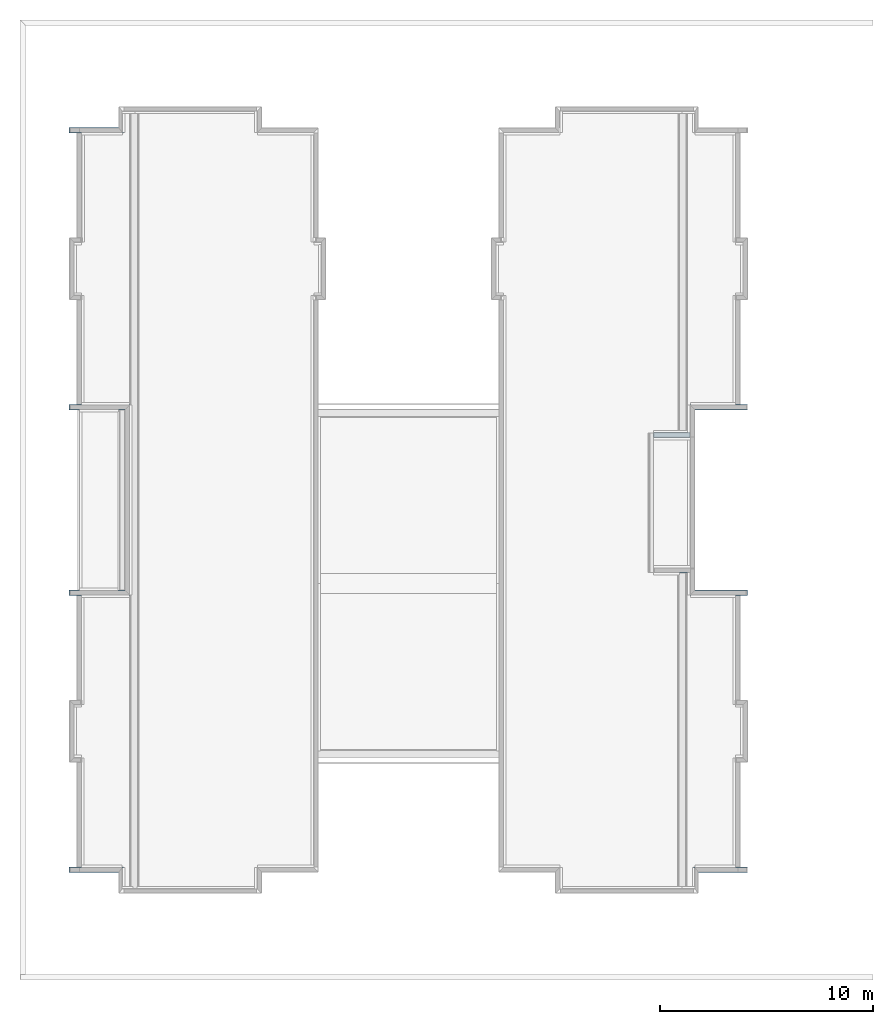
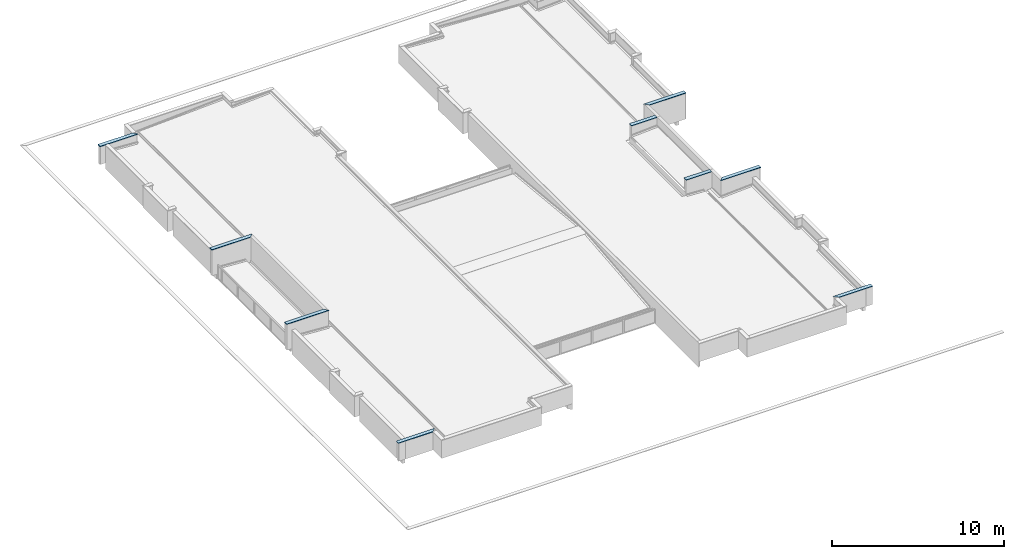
# One storey, part 21 of 25: 9 roofs.
"""IFC4 building model written with IfcOpenShell, lengths in metres."""

from ifc_helpers import new_model, entity, si_unit, converted_unit, derived_unit, direction, frame, origin_with_axes, place, context, subcontext, project, spatial, polygons, material, constituent, constituent_set, type_object, element, save


model = new_model("IFC4")

# Units and contexts
model_context = context("Model", 3, precision=1e-05, world=origin_with_axes(), true_north=direction((0.0, 1.0)))
body_context = subcontext(model_context, "Body", "Model", "MODEL_VIEW")
ifc_project = project(units=[si_unit("LENGTHUNIT", "METRE"), si_unit("AREAUNIT", "SQUARE_METRE"), si_unit("VOLUMEUNIT", "CUBIC_METRE"), converted_unit("PLANEANGLEUNIT", "DEGREE", entity("IfcPlaneAngleMeasure", 0.0174532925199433), si_unit("PLANEANGLEUNIT", "RADIAN"), dimensions=[0, 0, 0, 0, 0, 0, 0]), converted_unit("TIMEUNIT", "Year", entity("IfcTimeMeasure", 31557600.0), si_unit("TIMEUNIT", "SECOND"), dimensions=[0, 0, 1, 0, 0, 0, 0]), si_unit("MASSUNIT", "GRAM", prefix="KILO"), si_unit("THERMODYNAMICTEMPERATUREUNIT", "DEGREE_CELSIUS"), si_unit("LUMINOUSINTENSITYUNIT", "LUMEN"), si_unit("ENERGYUNIT", "JOULE", prefix="MEGA"), derived_unit("THERMALCONDUCTANCEUNIT", [(si_unit("POWERUNIT", "WATT"), 1), (si_unit("LENGTHUNIT", "METRE"), -1), (si_unit("THERMODYNAMICTEMPERATUREUNIT", "KELVIN"), -1)]), derived_unit("SPECIFICHEATCAPACITYUNIT", [(si_unit("ENERGYUNIT", "JOULE"), 1), (si_unit("MASSUNIT", "GRAM", prefix="KILO"), -1), (si_unit("THERMODYNAMICTEMPERATUREUNIT", "KELVIN"), -1)]), derived_unit("MASSDENSITYUNIT", [(si_unit("MASSUNIT", "GRAM", prefix="KILO"), 1), (si_unit("VOLUMEUNIT", "CUBIC_METRE"), -1)])], contexts=[model_context])

# Site, building, storey
site_placement = place(None, origin_with_axes())
site = spatial("IfcSite", under=ifc_project, at=site_placement, Name="PADRÃO", CompositionType="ELEMENT")
building_placement = place(site_placement, origin_with_axes())
building = spatial("IfcBuilding", under=site, at=building_placement, Name="CRECHE PRÉ-ESCOLA TIPO 2", CompositionType="ELEMENT")
storey_placement = place(building_placement, frame((0.0, 0.0, 3.26), z_axis=(0.0, 0.0, 1.0), x_axis=(1.0, 0.0, 0.0)))
storey = spatial("IfcBuildingStorey", under=building, at=storey_placement, Name="COBERTURA", CompositionType="ELEMENT", Elevation=3.26)

# Roofs
ifc_material = material(Name="PINGADEIRA EM CHAPA DE AÇO GALVANIZADO")
ifc_constituent_1 = constituent(ifc_material, Name="PINGADEIRA EM CHAPA DE AÇO GALVANIZADO 1")
ifc_constituent_2 = constituent(ifc_material, Name="PINGADEIRA EM CHAPA DE AÇO GALVANIZADO 2")
ifc_constituent_set_1 = constituent_set(constituents=[ifc_constituent_1, ifc_constituent_2])
roof_type_1 = type_object("IfcRoofType", Name="Várias Estruturas- 2 Segmentos - 250 x 40 x 2560 (1+2559)", PredefinedType="NOTDEFINED")
roof_1_placement = place(storey_placement, frame((-37.7150714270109, 5.05000196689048, 1.31), z_axis=(0.0, 0.0, 1.0), x_axis=(-1.32597019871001e-06, -0.999999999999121, 0.0)))
element("IfcRoof", 1, at=roof_1_placement, inside=storey, type_object=roof_type_1, material=ifc_constituent_set_1, Name="V01", PredefinedType="NOTDEFINED", context=body_context, shape_type="Tessellation", body=[
    polygons([(0.0250000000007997, 0.0, 0.00999999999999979), (0.0250000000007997, 0.000999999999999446, 0.00999999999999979), (-0.22503740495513, 0.000999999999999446, 0.00999999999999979), (-0.22503740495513, 0.0, 0.00999999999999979), (0.0250000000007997, 0.0, -0.0300000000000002), (0.0250000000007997, 0.000999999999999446, -0.0300000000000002), (-0.22503740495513, 0.000999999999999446, -0.0300000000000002), (-0.22503740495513, 0.0, -0.0300000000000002)], [[[1, 2, 3, 4]], [[5, 6, 2, 1]], [[3, 2, 6, 7]], [[4, 3, 7, 8]], [[5, 1, 4, 8]], [[8, 7, 6, 5]]], closed=True),
    polygons([(-0.225029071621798, 0.544967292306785, -0.00999999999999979), (-0.225024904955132, 0.54496729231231, 0.0), (-0.225024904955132, 0.404967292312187, 0.0), (-0.22503740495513, 0.404967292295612, -0.0300000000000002), (-0.22503740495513, 0.000999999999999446, -0.0300000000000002), (-0.225020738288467, 0.000999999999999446, 0.00999999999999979), (-0.225020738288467, 2.55997627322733, 0.00999999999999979), (-0.22503740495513, 2.5599929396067, -0.0300000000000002), (-0.22503740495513, 0.560083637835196, -0.0300000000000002), (-0.225029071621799, 0.560083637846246, -0.00999999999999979), (-0.224029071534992, 0.544967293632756, -0.00999999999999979), (-0.224024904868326, 0.544967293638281, 0.0), (-0.224024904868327, 0.404967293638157, 0.0), (-0.224036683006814, 0.40496729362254, -0.0282675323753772), (-0.205499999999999, 0.404967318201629, -0.01756537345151), (-0.204999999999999, 0.404967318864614, -0.0184313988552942), (-0.205, 0.000999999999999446, -0.0184313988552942), (-0.2055, 0.000999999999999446, -0.01756537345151), (-0.224036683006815, 0.000999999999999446, -0.0282675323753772), (-0.224021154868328, 0.000999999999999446, 0.00900000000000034), (0.0240000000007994, 0.000999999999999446, 0.00900000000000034), (0.0240000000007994, 0.000999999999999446, -0.0282679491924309), (0.00546259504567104, 0.000999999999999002, -0.01756537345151), (0.00496259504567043, 0.000999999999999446, -0.0184313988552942), (0.0250000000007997, 0.000999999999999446, -0.0300000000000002), (0.0250000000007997, 0.000999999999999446, 0.00999999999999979), (0.0250000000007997, 2.30995984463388, 0.00999999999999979), (-0.224036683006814, 2.55899223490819, -0.0282675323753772), (-0.2055, 2.54045587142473, -0.01756537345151), (-0.205, 2.5399558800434, -0.0184313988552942), (0.0250000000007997, 2.30995984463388, -0.0300000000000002), (0.00496259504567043, 2.32999690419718, -0.0184313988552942), (0.00546259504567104, 2.32949691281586, -0.01756537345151), (0.0240000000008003, 2.31095982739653, -0.0282679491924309), (0.0240000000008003, 2.31095982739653, 0.00900000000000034), (-0.224021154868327, 2.55897670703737, 0.00900000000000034), (-0.205000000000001, 0.560083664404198, -0.0184313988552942), (-0.205500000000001, 0.560083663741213, -0.01756537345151), (-0.224036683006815, 0.560083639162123, -0.0282675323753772), (-0.224029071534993, 0.560083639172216, -0.00999999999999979)], [[[1, 2, 3, 4, 5, 6, 7, 8, 9, 10]], [[11, 12, 2, 1]], [[12, 13, 3, 2]], [[14, 15, 16, 4, 3, 13]], [[17, 5, 4, 16]], [[17, 18, 19, 20, 21, 22, 23, 24, 25, 26, 6, 5]], [[7, 6, 26, 27]], [[28, 29, 30, 8, 7, 27, 31, 32, 33, 34, 35, 36]], [[30, 37, 9, 8]], [[9, 37, 38, 39, 40, 10]], [[10, 40, 11, 1]], [[14, 13, 12, 11, 40, 39, 28, 36, 20, 19]], [[19, 18, 15, 14]], [[18, 17, 16, 15]], [[35, 21, 20, 36]], [[34, 22, 21, 35]], [[33, 23, 22, 34]], [[32, 24, 23, 33]], [[31, 25, 24, 32]], [[27, 26, 25, 31]], [[28, 39, 38, 29]], [[29, 38, 37, 30]]], closed=True),
])
ifc_constituent_3 = constituent(ifc_material, Name="PINGADEIRA EM CHAPA DE AÇO GALVANIZADO 1")
ifc_constituent_4 = constituent(ifc_material, Name="PINGADEIRA EM CHAPA DE AÇO GALVANIZADO 2")
ifc_constituent_set_2 = constituent_set(constituents=[ifc_constituent_3, ifc_constituent_4])
roof_type_2 = type_object("IfcRoofType", Name="Várias Estruturas- 2 Segmentos - 250 x 40 x 2705 (1+2704)", PredefinedType="NOTDEFINED")
roof_2_placement = place(storey_placement, frame((-5.89056402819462, 18.2501544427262, 1.86), z_axis=(0.0, 0.0, 1.0), x_axis=(5.9962860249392e-07, 0.99999999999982, 0.0)))
element("IfcRoof", 2, at=roof_2_placement, inside=storey, type_object=roof_type_2, material=ifc_constituent_set_2, Name="V01", PredefinedType="NOTDEFINED", context=body_context, shape_type="Tessellation", body=[
    polygons([(0.0250000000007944, 0.0, 0.00999999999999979), (0.0250000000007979, 0.000999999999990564, 0.00999999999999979), (-0.225037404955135, 0.000999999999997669, 0.00999999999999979), (-0.225037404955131, 0.0, 0.00999999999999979), (0.0250000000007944, 0.0, -0.0300000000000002), (0.0250000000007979, 0.000999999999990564, -0.0300000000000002), (-0.225037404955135, 0.000999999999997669, -0.0300000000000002), (-0.225037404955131, 0.0, -0.0300000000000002)], [[[1, 2, 3, 4]], [[5, 6, 2, 1]], [[3, 2, 6, 7]], [[4, 3, 7, 8]], [[5, 1, 4, 8]], [[8, 7, 6, 5]]], closed=True),
    polygons([(0.0250000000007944, 0.000999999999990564, -0.0300000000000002), (0.0049625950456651, 0.000999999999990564, -0.0184313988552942), (0.00496259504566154, 2.47488143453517, -0.0184313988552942), (0.0250000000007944, 2.45484442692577, -0.0300000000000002), (-0.205500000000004, 0.000999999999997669, -0.01756537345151), (-0.224036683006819, 0.000999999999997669, -0.0282675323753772), (-0.224021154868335, 0.000999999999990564, 0.00900000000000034), (0.0240000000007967, 0.000999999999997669, 0.00900000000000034), (0.0240000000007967, 0.000999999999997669, -0.0282679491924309), (0.00546259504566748, 0.000999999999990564, -0.01756537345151), (0.0250000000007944, 0.000999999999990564, 0.00999999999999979), (-0.225020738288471, 0.000999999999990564, 0.00999999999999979), (-0.225037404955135, 0.000999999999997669, -0.0300000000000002), (-0.205000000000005, 0.000999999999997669, -0.0184313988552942), (0.00546259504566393, 2.47438144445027, -0.01756537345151), (-0.205500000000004, 2.68533985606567, -0.01756537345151), (-0.205000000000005, 2.68483986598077, -0.0184313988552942), (-0.225037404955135, 2.70487687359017, -0.0300000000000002), (-0.225020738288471, 2.70486020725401, 0.00999999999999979), (0.0250000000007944, 2.45484442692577, 0.00999999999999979), (0.0240000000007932, 2.45584440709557, -0.0282679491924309), (0.0240000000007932, 2.45584440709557, 0.00900000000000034), (-0.224021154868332, 2.70386064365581, 0.00900000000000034), (-0.224036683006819, 2.70387617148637, -0.0282675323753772)], [[[1, 2, 3, 4]], [[5, 6, 7, 8, 9, 10, 2, 1, 11, 12, 13, 14]], [[2, 10, 15, 3]], [[16, 17, 18, 19, 20, 4, 3, 15, 21, 22, 23, 24]], [[11, 1, 4, 20]], [[6, 5, 16, 24]], [[7, 6, 24, 23]], [[8, 7, 23, 22]], [[9, 8, 22, 21]], [[10, 9, 21, 15]], [[12, 11, 20, 19]], [[13, 12, 19, 18]], [[14, 13, 18, 17]], [[5, 14, 17, 16]]], closed=True),
])
ifc_constituent_5 = constituent(ifc_material, Name="PINGADEIRA EM CHAPA DE AÇO GALVANIZADO 1")
ifc_constituent_6 = constituent(ifc_material, Name="PINGADEIRA EM CHAPA DE AÇO GALVANIZADO 2")
ifc_constituent_set_3 = constituent_set(constituents=[ifc_constituent_5, ifc_constituent_6])
roof_type_3 = type_object("IfcRoofType", Name="Várias Estruturas- 2 Segmentos - 250 x 40 x 2715 (2714+1)", PredefinedType="NOTDEFINED")
roof_3_placement = place(storey_placement, frame((-8.37057142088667, 26.7501559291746, 1.86), z_axis=(0.0, 0.0, 1.0), x_axis=(2.82554878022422e-07, -0.99999999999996, 0.0)))
element("IfcRoof", 3, at=roof_3_placement, inside=storey, type_object=roof_type_3, material=ifc_constituent_set_3, Name="V01", PredefinedType="NOTDEFINED", context=body_context, shape_type="Tessellation", body=[
    polygons([(0.0250000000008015, 0.0250004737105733, -0.0300000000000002), (0.0049625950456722, 0.00496268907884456, -0.0184313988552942), (0.0049625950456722, 2.48900000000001, -0.0184313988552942), (0.0250000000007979, 2.48900000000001, -0.0300000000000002), (-0.205500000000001, -0.205503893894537, -0.01756537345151), (-0.224036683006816, -0.22404092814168, -0.0282675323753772), (-0.224021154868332, -0.22402539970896, 0.00900000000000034), (0.0240000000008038, 0.0240004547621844, 0.00900000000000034), (0.0240000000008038, 0.0240004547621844, -0.0282679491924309), (0.00546259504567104, 0.0054626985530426, -0.01756537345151), (0.0250000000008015, 0.0250004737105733, 0.00999999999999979), (-0.225020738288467, -0.225025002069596, 0.00999999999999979), (-0.225037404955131, -0.225041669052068, -0.0300000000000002), (-0.205000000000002, -0.205003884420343, -0.0184313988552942), (0.00546259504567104, 2.48900000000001, -0.01756537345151), (-0.205500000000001, 2.48900000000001, -0.01756537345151), (-0.205000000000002, 2.48900000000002, -0.0184313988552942), (-0.225037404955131, 2.48900000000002, -0.0300000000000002), (-0.225020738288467, 2.48900000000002, 0.00999999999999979), (0.0250000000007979, 2.48900000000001, 0.00999999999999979), (0.0240000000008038, 2.48900000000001, -0.0282679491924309), (0.0240000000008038, 2.48900000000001, 0.00900000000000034), (-0.224021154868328, 2.48900000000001, 0.00900000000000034), (-0.224036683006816, 2.48900000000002, -0.0282675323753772)], [[[1, 2, 3, 4]], [[5, 6, 7, 8, 9, 10, 2, 1, 11, 12, 13, 14]], [[2, 10, 15, 3]], [[16, 17, 18, 19, 20, 4, 3, 15, 21, 22, 23, 24]], [[11, 1, 4, 20]], [[6, 5, 16, 24]], [[7, 6, 24, 23]], [[8, 7, 23, 22]], [[9, 8, 22, 21]], [[10, 9, 21, 15]], [[12, 11, 20, 19]], [[13, 12, 19, 18]], [[14, 13, 18, 17]], [[5, 14, 17, 16]]], closed=True),
    polygons([(0.0250000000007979, 2.48900000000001, 0.00999999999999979), (0.0250000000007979, 2.49000000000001, 0.00999999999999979), (-0.225037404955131, 2.49000000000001, 0.00999999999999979), (-0.225037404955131, 2.48900000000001, 0.00999999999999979), (0.0250000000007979, 2.48900000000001, -0.0300000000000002), (0.0250000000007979, 2.49000000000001, -0.0300000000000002), (-0.225037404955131, 2.49000000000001, -0.0300000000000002), (-0.225037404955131, 2.48900000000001, -0.0300000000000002)], [[[1, 2, 3, 4]], [[5, 6, 2, 1]], [[3, 2, 6, 7]], [[4, 3, 7, 8]], [[5, 1, 4, 8]], [[8, 7, 6, 5]]], closed=True),
])
ifc_constituent_7 = constituent(ifc_material, Name="PINGADEIRA EM CHAPA DE AÇO GALVANIZADO 1")
ifc_constituent_8 = constituent(ifc_material, Name="PINGADEIRA EM CHAPA DE AÇO GALVANIZADO 2")
ifc_constituent_set_4 = constituent_set(constituents=[ifc_constituent_7, ifc_constituent_8])
roof_type_4 = type_object("IfcRoofType", Name="Várias Estruturas- 2 Segmentos - 250 x 40 x 2536 (1+2535)", PredefinedType="NOTDEFINED")
roof_4_placement = place(storey_placement, frame((-5.89004280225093, 5.05015602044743, 1.31), z_axis=(0.0, 0.0, 1.0), x_axis=(-1.48912753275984e-07, 0.999999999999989, 0.0)))
element("IfcRoof", 4, at=roof_4_placement, inside=storey, type_object=roof_type_4, material=ifc_constituent_set_4, Name="V01", PredefinedType="NOTDEFINED", context=body_context, shape_type="Tessellation", body=[
    polygons([(-0.0250000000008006, 0.0, -0.0300000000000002), (0.0299999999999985, -4.46738113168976e-09, -0.0300000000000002), (0.0299999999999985, -4.46738113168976e-09, 0.0), (0.169999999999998, -2.53151668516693e-08, 0.0), (0.169999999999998, -2.53151668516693e-08, -0.0300000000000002), (0.225037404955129, 0.0, -0.0300000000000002), (0.225037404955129, 0.0, 0.00999999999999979), (-0.0250000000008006, 0.0, 0.00999999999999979), (-0.0250000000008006, 0.00100000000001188, -0.0300000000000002), (0.0300000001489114, 0.00100000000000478, -0.0300000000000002), (0.0300000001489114, 0.00100000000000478, 0.0), (0.170000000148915, 0.00100000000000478, 0.0), (0.170000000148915, 0.00100000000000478, -0.0300000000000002), (0.225037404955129, 0.00100000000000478, -0.0300000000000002), (0.225037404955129, 0.00100000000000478, 0.00999999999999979), (-0.0250000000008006, 0.00100000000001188, 0.00999999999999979)], [[[1, 2, 3, 4, 5, 6, 7, 8]], [[9, 10, 2, 1]], [[11, 3, 2, 10]], [[12, 4, 3, 11]], [[13, 5, 4, 12]], [[6, 5, 13, 14]], [[7, 6, 14, 15]], [[8, 7, 15, 16]], [[1, 8, 16, 9]], [[12, 11, 10, 9, 16, 15, 14, 13]]], closed=True),
    polygons([(0.225037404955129, 0.00100000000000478, -0.0300000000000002), (0.204999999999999, 0.00100000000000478, -0.0184313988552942), (0.204999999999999, 0.379999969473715, -0.0184313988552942), (0.225037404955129, 0.37999996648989, -0.0300000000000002), (0.2055, 0.00100000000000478, -0.01756537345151), (0.225020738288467, 0.00100000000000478, 0.00999999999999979), (-0.0250000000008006, 0.00100000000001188, 0.00999999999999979), (-0.0250000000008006, 0.00100000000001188, -0.0300000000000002), (-0.00496259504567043, 0.00100000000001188, -0.0184313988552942), (-0.00546259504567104, 0.00100000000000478, -0.01756537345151), (-0.0240000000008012, 0.00100000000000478, -0.0282679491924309), (-0.0240000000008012, 0.00100000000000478, 0.00900000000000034), (0.224021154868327, 0.00100000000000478, 0.00900000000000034), (0.224036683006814, 0.00100000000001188, -0.0282675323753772), (0.2055, 0.379999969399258, -0.01756537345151), (0.224036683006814, 0.379999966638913, -0.0282675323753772), (0.224024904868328, 0.379999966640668, 0.0), (0.225024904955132, 0.379999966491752, 0.0), (0.225024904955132, 0.519999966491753, 0.0), (0.225029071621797, 0.519999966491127, -0.00999999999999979), (0.225029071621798, 0.53494465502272, -0.00999999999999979), (0.22503740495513, 0.534944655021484, -0.0300000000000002), (0.225037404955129, 2.53614507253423, -0.0300000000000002), (0.225020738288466, 2.53612839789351, 0.00999999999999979), (-0.0250000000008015, 2.28598803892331, 0.00999999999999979), (-0.0250000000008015, 2.28598803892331, -0.0300000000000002), (-0.00496259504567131, 2.30603503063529, -0.0184313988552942), (-0.00546259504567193, 2.30553479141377, -0.01756537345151), (-0.0240000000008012, 2.28698851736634, -0.0282679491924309), (-0.0240000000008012, 2.28698851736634, 0.00900000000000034), (0.224021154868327, 2.53512833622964, 0.00900000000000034), (0.224029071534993, 0.519999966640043, -0.00999999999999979), (0.224024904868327, 0.519999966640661, 0.0), (0.224036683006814, 2.53514387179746, -0.0282675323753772), (0.224036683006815, 0.534944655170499, -0.0282675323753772), (0.224029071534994, 0.534944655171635, -0.00999999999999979), (0.2055, 0.534944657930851, -0.01756537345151), (0.204999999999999, 0.534944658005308, -0.0184313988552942), (0.204999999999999, 2.51609808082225, -0.0184313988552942), (0.205499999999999, 2.51659832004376, -0.01756537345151)], [[[1, 2, 3, 4]], [[5, 2, 1, 6, 7, 8, 9, 10, 11, 12, 13, 14]], [[2, 5, 15, 3]], [[16, 17, 18, 4, 3, 15]], [[4, 18, 19, 20, 21, 22, 23, 24, 6, 1]], [[25, 7, 6, 24]], [[26, 8, 7, 25]], [[27, 9, 8, 26]], [[28, 10, 9, 27]], [[29, 11, 10, 28]], [[30, 12, 11, 29]], [[31, 13, 12, 30]], [[32, 33, 17, 16, 14, 13, 31, 34, 35, 36]], [[5, 14, 16, 15]], [[17, 33, 19, 18]], [[33, 32, 20, 19]], [[36, 21, 20, 32]], [[35, 37, 38, 22, 21, 36]], [[38, 39, 23, 22]], [[23, 39, 40, 34, 31, 30, 29, 28, 27, 26, 25, 24]], [[35, 34, 40, 37]], [[37, 40, 39, 38]]], closed=True),
])
ifc_constituent_9 = constituent(ifc_material, Name="PINGADEIRA EM CHAPA DE AÇO GALVANIZADO 1")
ifc_constituent_10 = constituent(ifc_material, Name="PINGADEIRA EM CHAPA DE AÇO GALVANIZADO 2")
ifc_constituent_set_5 = constituent_set(constituents=[ifc_constituent_9, ifc_constituent_10])
roof_type_5 = type_object("IfcRoofType", Name="Várias Estruturas- 2 Segmentos - 250 x 40 x 1700 (1+1699)", PredefinedType="NOTDEFINED")
roof_5_placement = place(storey_placement, frame((-10.2955713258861, 25.450155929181, 1.86), z_axis=(0.0, 0.0, 1.0), x_axis=(0.0, -1.0, 0.0)))
element("IfcRoof", 5, at=roof_5_placement, inside=storey, type_object=roof_type_5, material=ifc_constituent_set_5, Name="V01", PredefinedType="NOTDEFINED", context=body_context, shape_type="Tessellation", body=[
    polygons([(0.0250000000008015, 0.0, 0.00999999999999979), (0.0250000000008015, 0.00100000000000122, 0.00999999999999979), (-0.225037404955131, 0.00100000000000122, 0.00999999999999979), (-0.225037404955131, 0.0, 0.00999999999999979), (0.0250000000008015, 0.0, -0.0300000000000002), (0.0250000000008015, 0.00100000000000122, -0.0300000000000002), (-0.225037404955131, 0.00100000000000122, -0.0300000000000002), (-0.225037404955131, 0.0, -0.0300000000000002)], [[[1, 2, 3, 4]], [[5, 6, 2, 1]], [[3, 2, 6, 7]], [[4, 3, 7, 8]], [[5, 1, 4, 8]], [[8, 7, 6, 5]]], closed=True),
    polygons([(0.0250000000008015, 1.70000000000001, -0.0300000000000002), (0.0250000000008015, 0.00100000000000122, -0.0300000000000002), (0.0049625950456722, 0.00100000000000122, -0.0184313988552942), (0.0049625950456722, 1.70000000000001, -0.0184313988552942), (0.0250000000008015, 1.70000000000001, 0.00999999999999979), (0.0250000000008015, 0.00100000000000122, 0.00999999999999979), (0.0240000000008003, 0.00100000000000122, 0.00900000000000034), (0.0240000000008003, 0.00100000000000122, -0.0282679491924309), (0.00546259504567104, 0.00100000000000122, -0.01756537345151), (-0.225020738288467, 0.00100000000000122, 0.00999999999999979), (-0.225037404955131, 0.00100000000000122, -0.0300000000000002), (-0.204999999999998, 0.00100000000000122, -0.0184313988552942), (-0.205500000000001, 0.00100000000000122, -0.01756537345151), (-0.224036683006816, 0.00100000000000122, -0.0282675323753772), (-0.224021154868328, 0.00100000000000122, 0.00900000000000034), (0.00546259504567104, 1.70000000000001, -0.01756537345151), (-0.225020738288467, 1.70000000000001, 0.00999999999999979), (0.0240000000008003, 1.70000000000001, -0.0282679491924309), (0.0240000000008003, 1.70000000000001, 0.00900000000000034), (-0.224021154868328, 1.70000000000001, 0.00900000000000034), (-0.224036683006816, 1.70000000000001, -0.0282675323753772), (-0.205500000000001, 1.70000000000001, -0.01756537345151), (-0.205000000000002, 1.70000000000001, -0.0184313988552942), (-0.225037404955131, 1.70000000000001, -0.0300000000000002)], [[[1, 2, 3, 4]], [[5, 6, 2, 1]], [[7, 8, 9, 3, 2, 6, 10, 11, 12, 13, 14, 15]], [[4, 3, 9, 16]], [[17, 5, 1, 4, 16, 18, 19, 20, 21, 22, 23, 24]], [[17, 10, 6, 5]], [[18, 8, 7, 19]], [[16, 9, 8, 18]], [[24, 11, 10, 17]], [[23, 12, 11, 24]], [[22, 13, 12, 23]], [[21, 14, 13, 22]], [[20, 15, 14, 21]], [[19, 7, 15, 20]]], closed=True),
])
ifc_constituent_11 = constituent(ifc_material, Name="PINGADEIRA EM CHAPA DE AÇO GALVANIZADO 1")
ifc_constituent_12 = constituent(ifc_material, Name="PINGADEIRA EM CHAPA DE AÇO GALVANIZADO 2")
ifc_constituent_set_6 = constituent_set(constituents=[ifc_constituent_11, ifc_constituent_12])
roof_type_6 = type_object("IfcRoofType", Name="Várias Estruturas- 2 Segmentos - 250 x 40 x 1700 (1699+1)", PredefinedType="NOTDEFINED")
roof_6_placement = place(storey_placement, frame((-8.59545305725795, 19.3001866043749, 1.86), z_axis=(0.0, 0.0, 1.0), x_axis=(-1.9230767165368e-05, 0.999999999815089, 0.0)))
element("IfcRoof", 6, at=roof_6_placement, inside=storey, type_object=roof_type_6, material=ifc_constituent_set_6, Name="V01", PredefinedType="NOTDEFINED", context=body_context, shape_type="Tessellation", body=[
    polygons([(0.0250000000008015, 1.699, -0.0300000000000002), (0.0250000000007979, 0.0, -0.0300000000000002), (0.0049625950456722, 0.0, -0.0184313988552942), (0.0049625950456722, 1.699, -0.0184313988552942), (0.0250000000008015, 1.699, 0.00999999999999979), (0.0250000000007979, 0.0, 0.00999999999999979), (0.0240000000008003, 0.0, 0.00900000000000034), (0.0240000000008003, 0.0, -0.0282679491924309), (0.00546259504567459, 0.0, -0.01756537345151), (-0.225020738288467, 0.0, 0.00999999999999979), (-0.225037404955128, 0.0, -0.0300000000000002), (-0.205000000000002, 0.0, -0.0184313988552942), (-0.205500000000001, 0.0, -0.01756537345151), (-0.224036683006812, 0.0, -0.0282675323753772), (-0.224021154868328, 0.0, 0.00900000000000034), (0.00546259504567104, 1.699, -0.01756537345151), (-0.225020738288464, 1.699, 0.00999999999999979), (0.0240000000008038, 1.699, -0.0282679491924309), (0.0240000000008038, 1.699, 0.00900000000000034), (-0.224021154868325, 1.699, 0.00900000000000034), (-0.224036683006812, 1.699, -0.0282675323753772), (-0.205499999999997, 1.699, -0.01756537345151), (-0.204999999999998, 1.699, -0.0184313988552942), (-0.225037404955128, 1.699, -0.0300000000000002)], [[[1, 2, 3, 4]], [[5, 6, 2, 1]], [[7, 8, 9, 3, 2, 6, 10, 11, 12, 13, 14, 15]], [[4, 3, 9, 16]], [[17, 5, 1, 4, 16, 18, 19, 20, 21, 22, 23, 24]], [[17, 10, 6, 5]], [[18, 8, 7, 19]], [[16, 9, 8, 18]], [[24, 11, 10, 17]], [[23, 12, 11, 24]], [[22, 13, 12, 23]], [[21, 14, 13, 22]], [[20, 15, 14, 21]], [[19, 7, 15, 20]]], closed=True),
    polygons([(0.0250000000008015, 1.699, 0.00999999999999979), (0.025000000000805, 1.7, 0.00999999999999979), (-0.225037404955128, 1.7, 0.00999999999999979), (-0.225037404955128, 1.69899999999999, 0.00999999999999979), (0.0250000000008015, 1.699, -0.0300000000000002), (0.025000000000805, 1.7, -0.0300000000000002), (-0.225037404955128, 1.7, -0.0300000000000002), (-0.225037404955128, 1.69899999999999, -0.0300000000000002)], [[[1, 2, 3, 4]], [[5, 6, 2, 1]], [[3, 2, 6, 7]], [[4, 3, 7, 8]], [[5, 1, 4, 8]], [[8, 7, 6, 5]]], closed=True),
])
ifc_constituent_13 = constituent(ifc_material, Name="PINGADEIRA EM CHAPA DE AÇO GALVANIZADO 1")
ifc_constituent_14 = constituent(ifc_material, Name="PINGADEIRA EM CHAPA DE AÇO GALVANIZADO 2")
ifc_constituent_set_7 = constituent_set(constituents=[ifc_constituent_13, ifc_constituent_14])
roof_type_7 = type_object("IfcRoofType", Name="Várias Estruturas- 2 Segmentos - 250 x 40 x 2560 (2559+1)", PredefinedType="NOTDEFINED")
roof_7_placement = place(storey_placement, frame((-35.3800961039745, 39.950002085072, 1.31), z_axis=(0.0, 0.0, 1.0), x_axis=(-2.65474032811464e-07, 0.999999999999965, 0.0)))
element("IfcRoof", 7, at=roof_7_placement, inside=storey, type_object=roof_type_7, material=ifc_constituent_set_7, Name="V01", PredefinedType="NOTDEFINED", context=body_context, shape_type="Tessellation", body=[
    polygons([(-0.224029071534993, 1.79000749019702, -0.00999999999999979), (-0.224024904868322, 1.79000749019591, 0.0), (-0.224024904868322, 1.93000749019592, 0.0), (-0.224036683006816, 1.93000749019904, -0.0282675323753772), (-0.224036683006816, 2.33397532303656, -0.0282675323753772), (-0.224021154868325, 2.33397532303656, 0.00900000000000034), (-0.224021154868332, -0.224021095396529, 0.00900000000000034), (-0.224036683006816, -0.224036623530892, -0.0282675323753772), (-0.224036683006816, 1.77489144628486, -0.0282675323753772), (-0.224029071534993, 1.77489144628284, -0.00999999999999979), (-0.225029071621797, 1.79000749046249, -0.00999999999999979), (-0.225024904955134, 1.79000749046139, 0.0), (-0.225024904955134, 1.93000749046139, 0.0), (-0.225037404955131, 1.93000749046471, -0.0300000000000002), (-0.204999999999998, 1.93000748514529, -0.0184313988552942), (-0.205500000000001, 1.93000748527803, -0.01756537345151), (-0.205500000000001, 2.33397532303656, -0.01756537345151), (-0.204999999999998, 2.33397532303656, -0.0184313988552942), (-0.225037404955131, 2.33397532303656, -0.0300000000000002), (-0.225020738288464, 2.33397532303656, 0.00999999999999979), (0.0250000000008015, 2.33397532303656, 0.00999999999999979), (0.0250000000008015, 2.33397532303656, -0.0300000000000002), (0.00496259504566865, 2.33397532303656, -0.0184313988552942), (0.00546259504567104, 2.33397532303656, -0.01756537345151), (0.0240000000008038, 2.33397532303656, -0.0282679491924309), (0.0240000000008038, 2.33397532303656, 0.00900000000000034), (0.0240000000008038, 0.0239999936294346, 0.00900000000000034), (-0.204999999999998, -0.204999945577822, -0.0184313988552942), (-0.205499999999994, -0.205499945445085, -0.01756537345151), (0.0240000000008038, 0.0239999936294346, -0.0282679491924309), (0.00546259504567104, 0.00546259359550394, -0.01756537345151), (0.00496259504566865, 0.00496259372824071, -0.0184313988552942), (0.0250000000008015, 0.0249999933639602, -0.0300000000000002), (0.0250000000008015, 0.0249999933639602, 0.00999999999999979), (-0.225020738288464, -0.225020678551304, 0.00999999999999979), (-0.225037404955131, -0.225037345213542, -0.0300000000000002), (-0.205500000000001, 1.77489144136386, -0.01756537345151), (-0.225037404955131, 1.77489144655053, -0.0300000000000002), (-0.225029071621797, 1.77489144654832, -0.00999999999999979), (-0.204999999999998, 1.77489144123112, -0.0184313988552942)], [[[1, 2, 3, 4, 5, 6, 7, 8, 9, 10]], [[11, 12, 2, 1]], [[12, 13, 3, 2]], [[3, 13, 14, 15, 16, 4]], [[17, 5, 4, 16]], [[5, 17, 18, 19, 20, 21, 22, 23, 24, 25, 26, 6]], [[26, 27, 7, 6]], [[28, 29, 8, 7, 27, 30, 31, 32, 33, 34, 35, 36]], [[37, 9, 8, 29]], [[38, 39, 10, 9, 37, 40]], [[10, 39, 11, 1]], [[14, 13, 12, 11, 39, 38, 36, 35, 20, 19]], [[19, 18, 15, 14]], [[18, 17, 16, 15]], [[20, 35, 34, 21]], [[21, 34, 33, 22]], [[22, 33, 32, 23]], [[23, 32, 31, 24]], [[24, 31, 30, 25]], [[25, 30, 27, 26]], [[40, 37, 29, 28]], [[38, 40, 28, 36]]], closed=True),
    polygons([(0.0250000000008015, 2.33397532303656, 0.00999999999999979), (0.0250000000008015, 2.33497532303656, 0.00999999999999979), (-0.225037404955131, 2.33497532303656, 0.00999999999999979), (-0.225037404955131, 2.33397532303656, 0.00999999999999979), (0.0250000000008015, 2.33397532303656, -0.0300000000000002), (0.0250000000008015, 2.33497532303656, -0.0300000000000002), (-0.225037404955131, 2.33497532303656, -0.0300000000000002), (-0.225037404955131, 2.33397532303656, -0.0300000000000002)], [[[1, 2, 3, 4]], [[5, 6, 2, 1]], [[3, 2, 6, 7]], [[4, 3, 7, 8]], [[5, 1, 4, 8]], [[8, 7, 6, 5]]], closed=True),
])
ifc_constituent_15 = constituent(ifc_material, Name="PINGADEIRA EM CHAPA DE AÇO GALVANIZADO 1")
ifc_constituent_16 = constituent(ifc_material, Name="PINGADEIRA EM CHAPA DE AÇO GALVANIZADO 2")
ifc_constituent_set_8 = constituent_set(constituents=[ifc_constituent_15, ifc_constituent_16])
roof_type_8 = type_object("IfcRoofType", Name="Várias Estruturas- 2 Segmentos - 250 x 40 x 2850 (1+2849)", PredefinedType="NOTDEFINED")
roof_8_placement = place(storey_placement, frame((-37.7150717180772, 26.750002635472, 1.86), z_axis=(0.0, 0.0, 1.0), x_axis=(0.0, -1.0, 0.0)))
element("IfcRoof", 8, at=roof_8_placement, inside=storey, type_object=roof_type_8, material=ifc_constituent_set_8, Name="V01", PredefinedType="NOTDEFINED", context=body_context, shape_type="Tessellation", body=[
    polygons([(0.0250000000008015, 0.0, 0.00999999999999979), (0.0250000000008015, 0.00099999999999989, 0.00999999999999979), (-0.225037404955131, 0.00099999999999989, 0.00999999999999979), (-0.225037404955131, 0.0, 0.00999999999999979), (0.0250000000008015, 0.0, -0.0300000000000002), (0.0250000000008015, 0.00099999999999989, -0.0300000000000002), (-0.225037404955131, 0.00099999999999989, -0.0300000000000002), (-0.225037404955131, 0.0, -0.0300000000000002)], [[[1, 2, 3, 4]], [[5, 6, 2, 1]], [[3, 2, 6, 7]], [[4, 3, 7, 8]], [[5, 1, 4, 8]], [[8, 7, 6, 5]]], closed=True),
    polygons([(0.0049625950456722, 0.00099999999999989, -0.0184313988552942), (0.0049625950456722, 2.62003652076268, -0.0184313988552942), (0.0250000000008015, 2.59999920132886, -0.0300000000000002), (0.0250000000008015, 0.00099999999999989, -0.0300000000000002), (0.00546259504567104, 0.00099999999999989, -0.01756537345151), (0.00546259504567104, 2.61953652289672, -0.01756537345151), (-0.205000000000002, 2.82999821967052, -0.0184313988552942), (-0.225037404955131, 2.85003553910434, -0.0300000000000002), (-0.225020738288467, 2.85001887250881, 0.00999999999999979), (0.0250000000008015, 2.59999920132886, 0.00999999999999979), (0.0240000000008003, 2.60099919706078, -0.0282679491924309), (0.0240000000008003, 2.60099919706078, 0.00900000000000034), (-0.224021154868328, 2.84901929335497, 0.00900000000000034), (-0.224036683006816, 2.84903482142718, -0.0282675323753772), (-0.205500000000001, 2.83049821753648, -0.01756537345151), (0.0250000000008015, 0.00099999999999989, 0.00999999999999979), (-0.224036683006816, 0.00099999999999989, -0.0282675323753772), (-0.224021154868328, 0.00099999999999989, 0.00900000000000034), (0.0240000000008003, 0.00099999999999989, 0.00900000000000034), (0.0240000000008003, 0.00099999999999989, -0.0282679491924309), (-0.225020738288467, 0.00099999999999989, 0.00999999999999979), (-0.225037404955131, 0.00099999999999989, -0.0300000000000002), (-0.204999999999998, 0.00099999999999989, -0.0184313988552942), (-0.205500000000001, 0.00099999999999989, -0.01756537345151)], [[[1, 2, 3, 4]], [[5, 6, 2, 1]], [[7, 8, 9, 10, 3, 2, 6, 11, 12, 13, 14, 15]], [[4, 3, 10, 16]], [[17, 18, 19, 20, 5, 1, 4, 16, 21, 22, 23, 24]], [[20, 11, 6, 5]], [[22, 8, 7, 23]], [[21, 9, 8, 22]], [[16, 10, 9, 21]], [[19, 12, 11, 20]], [[18, 13, 12, 19]], [[17, 14, 13, 18]], [[24, 15, 14, 17]], [[23, 7, 15, 24]]], closed=True),
])
ifc_constituent_17 = constituent(ifc_material, Name="PINGADEIRA EM CHAPA DE AÇO GALVANIZADO 1")
ifc_constituent_18 = constituent(ifc_material, Name="PINGADEIRA EM CHAPA DE AÇO GALVANIZADO 2")
ifc_constituent_set_9 = constituent_set(constituents=[ifc_constituent_17, ifc_constituent_18])
roof_type_9 = type_object("IfcRoofType", Name="Várias Estruturas- 2 Segmentos - 250 x 40 x 2850 (2849+1)", PredefinedType="NOTDEFINED")
roof_9_placement = place(storey_placement, frame((-35.0900363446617, 18.2500019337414, 1.86), z_axis=(0.0, 0.0, 1.0), x_axis=(0.0, 1.0, 0.0)))
element("IfcRoof", 9, at=roof_9_placement, inside=storey, type_object=roof_type_9, material=ifc_constituent_set_9, Name="V01", PredefinedType="NOTDEFINED", context=body_context, shape_type="Tessellation", body=[
    polygons([(0.0049625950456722, 0.00496261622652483, -0.0184313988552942), (0.0049625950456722, 2.62403546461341, -0.0184313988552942), (0.0250000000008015, 2.62403546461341, -0.0300000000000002), (0.0250000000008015, 0.0250001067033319, -0.0300000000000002), (0.00546259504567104, 0.00546261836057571, -0.01756537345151), (0.00546259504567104, 2.62403546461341, -0.01756537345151), (-0.204999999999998, 2.62403546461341, -0.0184313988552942), (-0.225037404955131, 2.62403546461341, -0.0300000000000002), (-0.225020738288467, 2.62403546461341, 0.00999999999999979), (0.0250000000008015, 2.62403546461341, 0.00999999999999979), (0.0240000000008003, 2.62403546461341, -0.0282679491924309), (0.0240000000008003, 2.62403546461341, 0.00900000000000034), (-0.224021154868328, 2.62403546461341, 0.00900000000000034), (-0.224036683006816, 2.62403546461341, -0.0282675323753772), (-0.205500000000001, 2.62403546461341, -0.01756537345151), (0.0250000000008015, 0.0250001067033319, 0.00999999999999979), (-0.224036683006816, -0.224037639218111, -0.0282675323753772), (-0.224021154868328, -0.224022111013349, 0.00900000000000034), (0.0240000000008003, 0.0240001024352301, 0.00900000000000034), (0.0240000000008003, 0.0240001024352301, -0.0282679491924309), (-0.225020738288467, -0.225021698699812, 0.00999999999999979), (-0.225037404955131, -0.22503836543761, -0.0300000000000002), (-0.204999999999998, -0.205000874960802, -0.0184313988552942), (-0.205500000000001, -0.205500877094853, -0.01756537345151)], [[[1, 2, 3, 4]], [[5, 6, 2, 1]], [[7, 8, 9, 10, 3, 2, 6, 11, 12, 13, 14, 15]], [[4, 3, 10, 16]], [[17, 18, 19, 20, 5, 1, 4, 16, 21, 22, 23, 24]], [[20, 11, 6, 5]], [[22, 8, 7, 23]], [[21, 9, 8, 22]], [[16, 10, 9, 21]], [[19, 12, 11, 20]], [[18, 13, 12, 19]], [[17, 14, 13, 18]], [[24, 15, 14, 17]], [[23, 7, 15, 24]]], closed=True),
    polygons([(0.0250000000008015, 2.62403546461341, 0.00999999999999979), (0.0250000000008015, 2.62503546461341, 0.00999999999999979), (-0.225037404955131, 2.62503546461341, 0.00999999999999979), (-0.225037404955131, 2.62403546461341, 0.00999999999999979), (0.0250000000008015, 2.62403546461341, -0.0300000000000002), (0.0250000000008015, 2.62503546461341, -0.0300000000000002), (-0.225037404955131, 2.62503546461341, -0.0300000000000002), (-0.225037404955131, 2.62403546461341, -0.0300000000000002)], [[[1, 2, 3, 4]], [[5, 6, 2, 1]], [[3, 2, 6, 7]], [[4, 3, 7, 8]], [[5, 1, 4, 8]], [[8, 7, 6, 5]]], closed=True),
])

save(model, "model.ifc")
